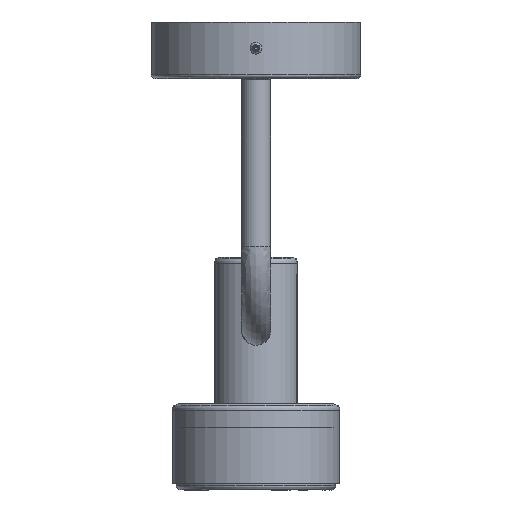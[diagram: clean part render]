
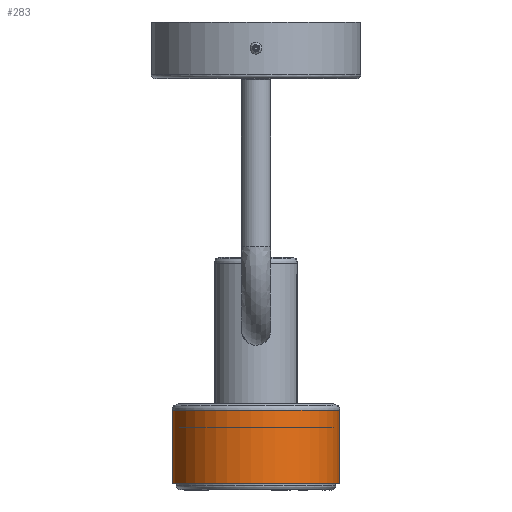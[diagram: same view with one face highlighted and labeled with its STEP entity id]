
A CAD part, left-side view. The second image highlights one B-rep face of the part: STEP entity #283.
In plain terms, the highlighted free-form (B-spline) face has degree [2, 1] with [9, 2] control points.
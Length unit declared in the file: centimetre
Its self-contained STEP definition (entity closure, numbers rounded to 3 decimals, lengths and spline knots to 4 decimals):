
#96 = CARTESIAN_POINT ('', (19., 0., -18.5));
#97 = VERTEX_POINT ('', #96);
#119 = CARTESIAN_POINT ('', (19., 0., -18.5));
#120 = CARTESIAN_POINT ('', (19., 4., -18.5));
#121 = CARTESIAN_POINT ('', (15., 4., -18.5));
#122 = CARTESIAN_POINT ('', (11., 4., -18.5));
#123 = CARTESIAN_POINT ('', (11., 0., -18.5));
#124 = CARTESIAN_POINT ('', (11., -4., -18.5));
#125 = CARTESIAN_POINT ('', (15., -4., -18.5));
#126 = CARTESIAN_POINT ('', (19., -4., -18.5));
#127 = CARTESIAN_POINT ('', (19., 0., -18.5));
#128 = (
   BOUNDED_CURVE ()
   B_SPLINE_CURVE (2, (#119, #120, #121, #122, #123, #124, #125, #126, #127), .UNSPECIFIED., .T., .U.)
   B_SPLINE_CURVE_WITH_KNOTS ((3, 2, 2, 2, 3), (180., 270., 360., 450., 540.), .UNSPECIFIED.)
   CURVE ()
   GEOMETRIC_REPRESENTATION_ITEM ()
   RATIONAL_B_SPLINE_CURVE ((1., 0.707, 1., 0.707, 1., 0.707, 1., 0.707, 1.))
   REPRESENTATION_ITEM ('')
);
#129 = EDGE_CURVE ('', #97, #97, #128, .T.);
#241 = CARTESIAN_POINT ('', (19., 0., -22.));
#242 = VERTEX_POINT ('', #241);
#243 = CARTESIAN_POINT ('', (19., 0., -22.));
#244 = CARTESIAN_POINT ('', (19., 0., -18.5));
#245 = B_SPLINE_CURVE_WITH_KNOTS ('', 1, (#243, #244), .UNSPECIFIED., .F., .U., (2, 2), (0.0836, 0.9164), .UNSPECIFIED.);
#246 = EDGE_CURVE ('', #242, #97, #245, .T.);
#247 = ORIENTED_EDGE ('', *, *, #246, .T.);
#248 = ORIENTED_EDGE ('', *, *, #129, .F.);
#249 = ORIENTED_EDGE ('', *, *, #246, .F.);
#250 = CARTESIAN_POINT ('', (19., 0., -22.));
#251 = CARTESIAN_POINT ('', (19., 4., -22.));
#252 = CARTESIAN_POINT ('', (15., 4., -22.));
#253 = CARTESIAN_POINT ('', (11., 4., -22.));
#254 = CARTESIAN_POINT ('', (11., 0., -22.));
#255 = CARTESIAN_POINT ('', (11., -4., -22.));
#256 = CARTESIAN_POINT ('', (15., -4., -22.));
#257 = CARTESIAN_POINT ('', (19., -4., -22.));
#258 = CARTESIAN_POINT ('', (19., 0., -22.));
#259 = (
   BOUNDED_CURVE ()
   B_SPLINE_CURVE (2, (#250, #251, #252, #253, #254, #255, #256, #257, #258), .UNSPECIFIED., .T., .U.)
   B_SPLINE_CURVE_WITH_KNOTS ((3, 2, 2, 2, 3), (0., 90., 180., 270., 360.), .UNSPECIFIED.)
   CURVE ()
   GEOMETRIC_REPRESENTATION_ITEM ()
   RATIONAL_B_SPLINE_CURVE ((1., 0.707, 1., 0.707, 1., 0.707, 1., 0.707, 1.))
   REPRESENTATION_ITEM ('')
);
#260 = EDGE_CURVE ('', #242, #242, #259, .T.);
#261 = ORIENTED_EDGE ('', *, *, #260, .T.);
#262 = EDGE_LOOP ('', (#247, #248, #249, #261));
#263 = FACE_OUTER_BOUND ('', #262, .T.);
#264 = CARTESIAN_POINT ('', (19., 0., -18.1488));
#265 = CARTESIAN_POINT ('', (19., 0., -22.3512));
#266 = CARTESIAN_POINT ('', (19., -4., -18.1488));
#267 = CARTESIAN_POINT ('', (19., -4., -22.3512));
#268 = CARTESIAN_POINT ('', (15., -4., -18.1488));
#269 = CARTESIAN_POINT ('', (15., -4., -22.3512));
#270 = CARTESIAN_POINT ('', (11., -4., -18.1488));
#271 = CARTESIAN_POINT ('', (11., -4., -22.3512));
#272 = CARTESIAN_POINT ('', (11., 0., -18.1488));
#273 = CARTESIAN_POINT ('', (11., 0., -22.3512));
#274 = CARTESIAN_POINT ('', (11., 4., -18.1488));
#275 = CARTESIAN_POINT ('', (11., 4., -22.3512));
#276 = CARTESIAN_POINT ('', (15., 4., -18.1488));
#277 = CARTESIAN_POINT ('', (15., 4., -22.3512));
#278 = CARTESIAN_POINT ('', (19., 4., -18.1488));
#279 = CARTESIAN_POINT ('', (19., 4., -22.3512));
#280 = CARTESIAN_POINT ('', (19., 0., -18.1488));
#281 = CARTESIAN_POINT ('', (19., 0., -22.3512));
#282 = (
   BOUNDED_SURFACE ()
   B_SPLINE_SURFACE (2, 1, ((#264, #265), (#266, #267), (#268, #269), (#270, #271), (#272, #273), (#274, #275), (#276, #277), (#278, #279), (#280, #281)), .UNSPECIFIED., .T., .F., .U.)
   B_SPLINE_SURFACE_WITH_KNOTS ((3, 2, 2, 2, 3), (2, 2), (0., 0.25, 0.5, 0.75, 1.), (0., 1.), .UNSPECIFIED.)
   SURFACE ()
   GEOMETRIC_REPRESENTATION_ITEM ()
   RATIONAL_B_SPLINE_SURFACE (((1., 1.), (0.707, 0.707), (1., 1.), (0.707, 0.707), (1., 1.), (0.707, 0.707), (1., 1.), (0.707, 0.707), (1., 1.)))
   REPRESENTATION_ITEM ('')
);
#283 = ADVANCED_FACE ('', (#263), #282, .T.);
